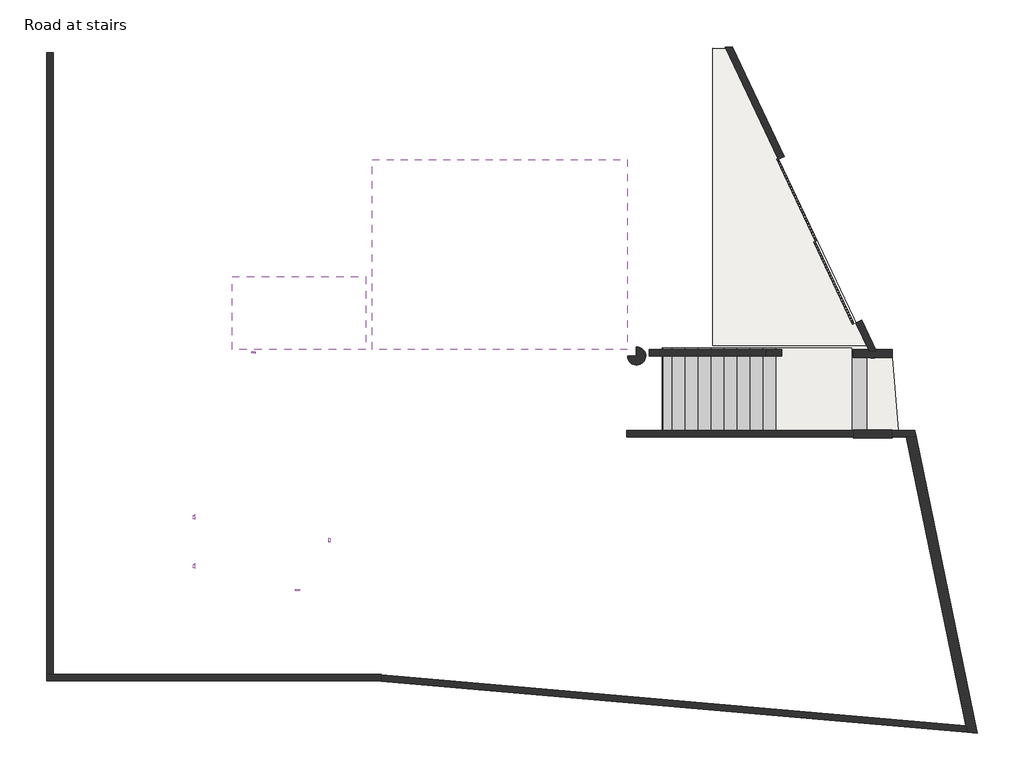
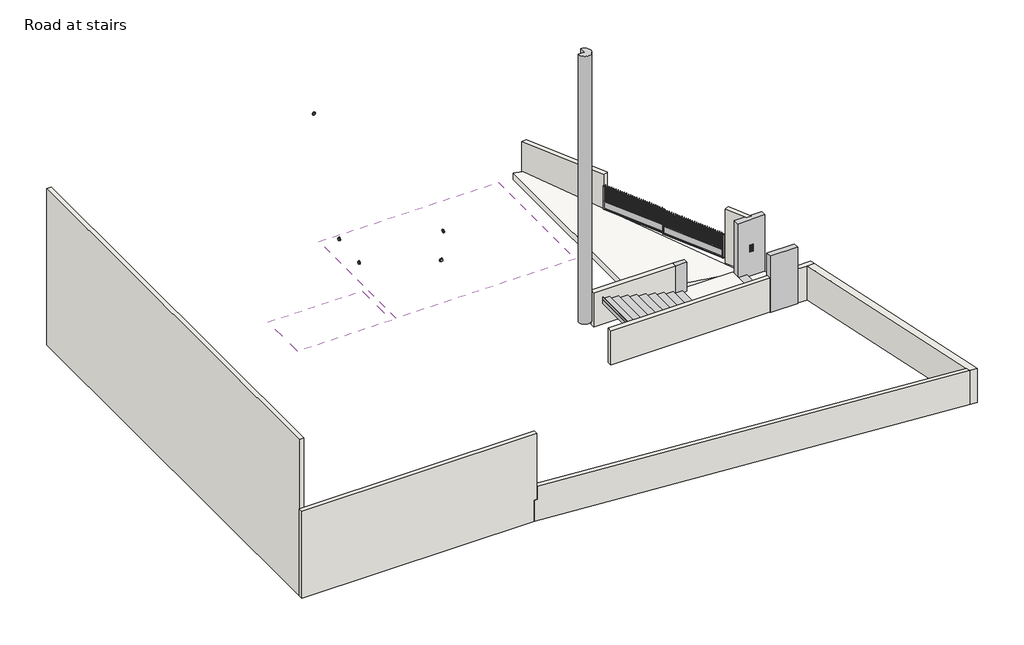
# One storey, incomplete: 8 walls, 5 light fixtures, 4 columns, 3 slabs, 2 coverings, 2 geographic elements, 2 stair flights, 1 electric appliance.
"""IFC4 building model written with IfcOpenShell, lengths in millimetres."""

from ifc_helpers import new_model, si_unit, point, frame, frame_2d, origin, place, context, project, spatial, polyline, circle_curve, trimmed, segment, composite_curve, outline, extrude, faceted_brep, transform, mapped, element, save
from components import communication_device_4de170aa, geographic_element_3dbb8d9e, geographic_element_62fdb492, geographic_element_1e7744e3, geographic_element_150366da, geographic_element_b61b0670, geographic_element_4788649b, m_recessed_lamp_round_led_e6f06c98

model = new_model("IFC4")

# Units and contexts
model_context = context("Model", 3, world=origin())
ifc_project = project(units=[si_unit("LENGTHUNIT", "METRE", prefix="MILLI")], contexts=[model_context])

# Site, building, storey
site = spatial("IfcSite", under=ifc_project)
building = spatial("IfcBuilding", under=site)
storey = spatial("IfcBuildingStorey", under=building, Name="Road at stairs", Elevation=-700.0)

# Columns
placement = place(None, origin())
element("IfcColumn", 1, ObjectType="M_Concrete-Rectangular-Column : 200 x500mm", at=placement, inside=storey, context=model_context, shape_type="SweptSolid", body=[
    extrude(outline(polyline([(12010.87749, 3030.6486583), (12010.87749, 2830.6486583), (11510.87749, 2830.6486583), (11510.87749, 3030.6486583), (12010.87749, 3030.6486583)])), frame((0.0, 0.0, -600.0), z_axis=(0.0, 0.0, 1.0), x_axis=(1.0, 0.0, 0.0)), (0.0, 0.0, 1.0), 1480.0),
])
element("IfcColumn", 2, ObjectType="M_Concrete-Rectangular-Column : 250 x1200mm", at=placement, inside=storey, context=model_context, shape_type="Brep", body=[
    faceted_brep([(15410.8774901, 552.6987644, -700.0), (15410.8774901, 527.6987644, -700.0), (15410.8774901, 327.6987644, -700.0), (15410.8774901, 302.6987644, -700.0), (14210.8774901, 302.6987644, -700.0), (14210.8774901, 327.6987644, -700.0), (14210.8774901, 527.6987644, -700.0), (14210.8774901, 552.6987644, -700.0), (15410.8774901, 552.6987644, 1915.1528001), (15410.8774901, 302.6987644, 1915.1528001), (14210.8774901, 302.6987644, 1915.1528001), (14210.8774901, 552.6987644, 1915.1528001)], [[[0, 1, 2, 3, 4, 5, 6, 7]], [[8, 9, 3, 2, 1, 0]], [[9, 10, 4, 3]], [[10, 11, 7, 6, 5, 4]], [[11, 8, 0, 7]], [[8, 11, 10, 9]]]),
])
element("IfcColumn", 3, ObjectType="M_Concrete-Rectangular-Column : 250 x1200mm", at=placement, inside=storey, context=model_context, shape_type="SweptSolid", body=[
    extrude(outline(polyline([(15410.8774901, 3030.6486583), (15410.8774901, 2780.6486583), (14210.8774901, 2780.6486583), (14210.8774901, 3030.6486583), (15410.8774901, 3030.6486583)])), frame((0.0, 0.0, -700.0), z_axis=(0.0, 0.0, 1.0), x_axis=(1.0, 0.0, 0.0)), (0.0, 0.0, 1.0), 2613.3333333),
])
element("IfcColumn", 4, ObjectType="Structural Columns 2 : Structural Columns 1", at=placement, inside=storey, context=model_context, shape_type="SweptSolid", body=[
    extrude(outline(composite_curve([segment(polyline([(7245.5234079, 2830.6486583), (7512.5234079, 2830.6486583), (7512.5234079, 3110.3467097)]), True, "CONTINUOUS"), segment(trimmed(circle_curve(frame_2d((7525.5234079, 2830.6486583)), 280.0), [point((7512.5234079, 3110.3467097))], [point((7245.5234079, 2830.6486583))], False, "CARTESIAN"), True, "CONTINUOUS")], self_intersect=False)), frame((0.0, 0.0, -239.4526182), z_axis=(0.0, 0.0, 1.0), x_axis=(1.0, 0.0, 0.0)), (0.0, 0.0, 1.0), 12429.4526182),
])

# Coverings
element("IfcCovering", 5, ObjectType="Plain", at=placement, inside=storey, context=model_context, shape_type="SweptSolid", body=[
    extrude(outline(polyline([(-627.4765921, 3030.6486583), (-627.4765921, 8901.6620874), (7235.5234079, 8901.6620874), (7235.5234079, 3030.6486583), (-627.4765921, 3030.6486583)]), holes=[composite_curve([segment(trimmed(circle_curve(frame_2d((4528.1894212, 4577.445533)), 55.0), [point((4473.1894212, 4577.445533))], [point((4583.1894212, 4577.445533))], True, "CARTESIAN"), True, "CONTINUOUS"), segment(trimmed(circle_curve(frame_2d((4528.1894212, 4577.445533)), 55.0), [point((4583.1894212, 4577.445533))], [point((4473.1894212, 4577.445533))], True, "CARTESIAN"), True, "CONTINUOUS")], self_intersect=False), composite_curve([segment(trimmed(circle_curve(frame_2d((4528.1894212, 7459.6229895)), 55.0), [point((4583.1894212, 7459.6229895))], [point((4473.1894212, 7459.6229895))], True, "CARTESIAN"), True, "CONTINUOUS"), segment(trimmed(circle_curve(frame_2d((4528.1894212, 7459.6229895)), 55.0), [point((4473.1894212, 7459.6229895))], [point((4583.1894212, 7459.6229895))], True, "CARTESIAN"), True, "CONTINUOUS")], self_intersect=False), composite_curve([segment(trimmed(circle_curve(frame_2d((1091.0786834, 4576.9703482)), 55.0), [point((1036.0786834, 4576.9703482))], [point((1146.0786834, 4576.9703482))], True, "CARTESIAN"), True, "CONTINUOUS"), segment(trimmed(circle_curve(frame_2d((1091.0786834, 4576.9703482)), 55.0), [point((1146.0786834, 4576.9703482))], [point((1036.0786834, 4576.9703482))], True, "CARTESIAN"), True, "CONTINUOUS")], self_intersect=False), composite_curve([segment(trimmed(circle_curve(frame_2d((1091.0786834, 7460.0981743)), 55.0), [point((1146.0786834, 7460.0981743))], [point((1036.0786834, 7460.0981743))], True, "CARTESIAN"), True, "CONTINUOUS"), segment(trimmed(circle_curve(frame_2d((1091.0786834, 7460.0981743)), 55.0), [point((1036.0786834, 7460.0981743))], [point((1146.0786834, 7460.0981743))], True, "CARTESIAN"), True, "CONTINUOUS")], self_intersect=False), polyline([(2453.1496132, 6066.9824461), (2453.1496132, 6006.9824461), (2513.1496132, 6006.9824461), (2513.1496132, 6066.9824461), (2453.1496132, 6066.9824461)])]), frame((0.0, 0.0, 2573.0), z_axis=(0.0, 0.0, 1.0), x_axis=(1.0, 0.0, 0.0)), (0.0, 0.0, 1.0), 12.0),
])
element("IfcCovering", 6, ObjectType="Plain", at=placement, inside=storey, context=model_context, shape_type="SweptSolid", body=[
    extrude(outline(polyline([(-4957.4765921, 3030.6486583), (-4957.4765921, 5284.4560655), (-827.4765921, 5284.4560655), (-827.4765921, 3030.6486583), (-4957.4765921, 3030.6486583)]), holes=[composite_curve([segment(trimmed(circle_curve(frame_2d((-2807.4765921, 4284.4560655)), 55.0), [point((-2752.4765921, 4284.4560655))], [point((-2862.4765921, 4284.4560655))], True, "CARTESIAN"), True, "CONTINUOUS"), segment(trimmed(circle_curve(frame_2d((-2807.4765921, 4284.4560655)), 55.0), [point((-2862.4765921, 4284.4560655))], [point((-2752.4765921, 4284.4560655))], True, "CARTESIAN"), True, "CONTINUOUS")], self_intersect=False), composite_curve([segment(trimmed(circle_curve(frame_2d((-4207.4765921, 4284.4560655)), 55.0), [point((-4152.4765921, 4284.4560655))], [point((-4262.4765921, 4284.4560655))], True, "CARTESIAN"), True, "CONTINUOUS"), segment(trimmed(circle_curve(frame_2d((-4207.4765921, 4284.4560655)), 55.0), [point((-4262.4765921, 4284.4560655))], [point((-4152.4765921, 4284.4560655))], True, "CARTESIAN"), True, "CONTINUOUS")], self_intersect=False), composite_curve([segment(trimmed(circle_curve(frame_2d((-1407.4765921, 4284.4560655)), 55.0), [point((-1352.4765921, 4284.4560655))], [point((-1462.4765921, 4284.4560655))], True, "CARTESIAN"), True, "CONTINUOUS"), segment(trimmed(circle_curve(frame_2d((-1407.4765921, 4284.4560655)), 55.0), [point((-1462.4765921, 4284.4560655))], [point((-1352.4765921, 4284.4560655))], True, "CARTESIAN"), True, "CONTINUOUS")], self_intersect=False)]), frame((0.0, 0.0, 2550.0), z_axis=(0.0, 0.0, 1.0), x_axis=(1.0, 0.0, 0.0)), (0.0, 0.0, 1.0), 12.0),
])

# Electric appliance
communication_device_shape = communication_device_4de170aa(model_context)
element("IfcElectricAppliance", 7, ObjectType="E_Communication Device_Intercom_F_MEPcontent_Recessed_Generic : Communication Device", at=placement, inside=storey, context=model_context, shape_type="MappedRepresentation", body=[
    mapped(communication_device_shape, transform((14810.8774901, 2780.6486583, 580.0), x_axis=(1.0, 0.0, 0.0), y_axis=(0.0, 0.0, 1.0), z_axis=(0.0, -1.0, 0.0))),
])

# Geographic elements
geographic_element_shape = geographic_element_3dbb8d9e(model_context)
geographic_element_2_shape = geographic_element_62fdb492(model_context)
geographic_element_3_shape = geographic_element_1e7744e3(model_context)
element("IfcGeographicElement", 8, ObjectType="Portail coulissant - 01 : Portail coulissant - 01", at=placement, inside=storey, context=model_context, shape_type="MappedRepresentation", body=[
    mapped(geographic_element_shape, transform((13666.5138895, 4971.8720463, -300.0), x_axis=(0.42753488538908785, -0.903998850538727, 0.0), y_axis=(0.903998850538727, 0.42753488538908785, 0.0), z_axis=(0.0, 0.0, 1.0))),
    mapped(geographic_element_2_shape, transform((13666.5138895, 4971.8720463, -300.0), x_axis=(0.42753488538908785, -0.903998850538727, 0.0), y_axis=(0.903998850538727, 0.42753488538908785, 0.0), z_axis=(0.0, 0.0, 1.0))),
    mapped(geographic_element_3_shape, transform((13666.5138895, 4971.8720463, -300.0), x_axis=(0.42753488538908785, -0.903998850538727, 0.0), y_axis=(0.903998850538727, 0.42753488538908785, 0.0), z_axis=(0.0, 0.0, 1.0))),
])
geographic_element_4_shape = geographic_element_150366da(model_context)
geographic_element_5_shape = geographic_element_b61b0670(model_context)
geographic_element_6_shape = geographic_element_4788649b(model_context)
element("IfcGeographicElement", 9, ObjectType="Portail coulissant - 01 : Portail coulissant - 01", at=placement, inside=storey, context=model_context, shape_type="MappedRepresentation", body=[
    mapped(geographic_element_4_shape, transform((12410.774708, 7776.4568016, -300.0), x_axis=(-0.42753488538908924, 0.9039988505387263, 0.0), y_axis=(-0.9039988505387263, -0.42753488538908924, 0.0), z_axis=(0.0, 0.0, 1.0))),
    mapped(geographic_element_5_shape, transform((12410.774708, 7776.4568016, -300.0), x_axis=(-0.42753488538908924, 0.9039988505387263, 0.0), y_axis=(-0.9039988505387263, -0.42753488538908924, 0.0), z_axis=(0.0, 0.0, 1.0))),
    mapped(geographic_element_6_shape, transform((12410.774708, 7776.4568016, -300.0), x_axis=(-0.42753488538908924, 0.9039988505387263, 0.0), y_axis=(-0.9039988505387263, -0.42753488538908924, 0.0), z_axis=(0.0, 0.0, 1.0))),
])

# Light fixtures
m_recessed_lamp_round_led_shape = m_recessed_lamp_round_led_e6f06c98(model_context)
element("IfcLightFixture", 10, ObjectType="M_Recessed Lamp - Round - LED : 100mm Trimless Downlight", at=placement, inside=storey, context=model_context, shape_type="MappedRepresentation", body=[
    mapped(m_recessed_lamp_round_led_shape, transform((-6107.4765921, -3652.1554926, 11138.9960878), x_axis=(0.0, 1.0, 0.0), y_axis=(0.0, 0.0, 1.0), z_axis=(1.0, 0.0, 0.0))),
])
element("IfcLightFixture", 11, ObjectType="M_Recessed Lamp - Round - LED : 100mm Trimless Downlight", at=placement, inside=storey, context=model_context, shape_type="MappedRepresentation", body=[
    mapped(m_recessed_lamp_round_led_shape, transform((-6107.4765921, -2139.8724951, 11311.2799827), x_axis=(0.0, 1.0, 0.0), y_axis=(0.0, 0.0, 1.0), z_axis=(1.0, 0.0, 0.0))),
])
element("IfcLightFixture", 12, ObjectType="M_Recessed Lamp - Round - LED : 100mm Trimless Downlight", at=placement, inside=storey, context=model_context, shape_type="MappedRepresentation", body=[
    mapped(m_recessed_lamp_round_led_shape, transform((-4293.8265921, 2926.4863231, 13423.9355638), x_axis=(1.0, 0.0, 0.0), y_axis=(0.0, 0.0, 1.0), z_axis=(0.0, -1.0, 0.0))),
])
element("IfcLightFixture", 13, ObjectType="M_Recessed Lamp - Round - LED : 100mm Trimless Downlight", at=placement, inside=storey, context=model_context, shape_type="MappedRepresentation", body=[
    mapped(m_recessed_lamp_round_led_shape, transform((-2940.0, -4385.2669739, 10595.7789892), x_axis=(-1.0, 0.0, 0.0), y_axis=(0.0, 0.0, 1.0), z_axis=(0.0, 1.0, 0.0))),
])
element("IfcLightFixture", 14, ObjectType="M_Recessed Lamp - Round - LED : 100mm Trimless Downlight", at=placement, inside=storey, context=model_context, shape_type="MappedRepresentation", body=[
    mapped(m_recessed_lamp_round_led_shape, transform((-1970.9661191, -2855.2669739, 10659.9950677), x_axis=(0.0, -1.0, 0.0), y_axis=(0.0, 0.0, 1.0), z_axis=(-1.0, 0.0, 0.0))),
])

# Slabs
element("IfcSlab", 15, ObjectType="300mm Foundation Slab 2", at=placement, inside=storey, context=model_context, shape_type="Brep", body=[
    faceted_brep([(9876.3853705, 12329.3307616, -303.250816), (10284.5140818, 12319.0970126, -363.4958212), (14618.522861, 3155.0753421, -1003.250816), (9876.3853705, 3155.0753421, -303.250816), (9876.3853705, 12329.3307616, 0.0), (9876.3853705, 3155.0753421, 0.0), (14618.522861, 3155.0753421, -700.0), (10284.5140818, 12319.0970126, -60.2450052)], [[[0, 1, 2, 3]], [[4, 5, 6, 7]], [[1, 0, 4, 7]], [[2, 1, 7, 6]], [[3, 2, 6, 5]], [[0, 3, 5, 4]]]),
])
element("IfcSlab", 16, ObjectType="300mm Thickness", at=placement, inside=storey, context=model_context, shape_type="SolidModel", body=[
    faceted_brep([(14136.9996553, 527.6987644, -516.6666667), (14136.9996553, 2780.6486582, -516.6666667), (14169.4996553, 2780.6486582, -516.6666667), (14169.4996553, 3080.6486583, -516.6666667), (12321.2209388, 3080.6486583, -516.6666667), (11810.8774899, 3080.6486583, -516.6666667), (11778.3774899, 3080.6486583, -516.6666667), (11778.3774899, 527.6987644, -516.6666667), (11810.8774899, 527.6987644, -516.6666667), (12321.2209388, 527.6987644, -516.6666667), (14136.9996553, 527.6987644, -623.3333333), (14136.9996553, 527.6987644, -700.0), (14136.9996553, 2780.6486582, -700.0), (14136.9996553, 2780.6486582, -623.3333333), (14169.4996553, 2780.6486582, -700.0), (14169.4996553, 3080.6486583, -700.0), (12321.2209388, 3080.6486583, -700.0), (11883.7209388, 3080.6486583, -700.0), (11810.8774899, 3080.6486583, -680.5750803), (11778.3774899, 3080.6486583, -671.9084136), (11778.3774899, 527.6987644, -671.9084136), (11810.8774899, 527.6987644, -680.5750803), (11883.7209388, 527.6987644, -700.0), (12321.2209388, 527.6987644, -700.0)], [[[0, 1, 2, 3, 4, 5, 6, 7, 8, 9]], [[1, 0, 10, 11, 12, 13]], [[3, 2, 14, 15]], [[3, 15, 16, 17, 18, 5, 4]], [[6, 5, 18, 19]], [[7, 6, 19, 20]], [[8, 7, 20, 21]], [[11, 10, 0, 9, 8, 21, 22, 23]], [[12, 11, 23, 22, 17, 16, 15, 14]], [[17, 22, 21, 20, 19, 18]], [[2, 1, 13, 12, 14]]]),
    extrude(outline(polyline([(14169.4996553, 527.6987644), (11810.8774899, 527.6987644), (11790.8774899, 527.6987644), (11790.8774899, 3080.6486583), (11810.8774899, 3080.6486583), (14169.4996553, 3080.6486583), (14169.4996553, 2780.6486582), (14169.4996553, 527.6987644)])), frame((0.0, 0.0, -516.6666667), z_axis=(0.0, 0.0, 1.0), x_axis=(1.0, 0.0, 0.0)), (0.0, 0.0, 1.0), 30.0),
])
element("IfcSlab", 17, ObjectType="front landing", at=placement, inside=storey, context=model_context, shape_type="SweptSolid", body=[
    extrude(outline(polyline([(14619.4996553, 2780.6486583), (15410.8774901, 2780.6486583), (15590.8774901, 527.6987644), (14619.4996553, 527.6987644), (14619.4996553, 2780.6486583)])), frame((0.0, 0.0, -850.0), z_axis=(0.0, 0.0, 1.0), x_axis=(1.0, 0.0, 0.0)), (0.0, 0.0, 1.0), 150.0),
])

# Stair flights
element("IfcStairFlight", 18, ObjectType="150mm Depth", at=placement, inside=storey, context=model_context, shape_type="SolidModel", body=[
    faceted_brep([(14136.9996553, 527.6987644, -623.3333333), (14169.4996553, 527.6987644, -623.3333333), (14586.9996553, 527.6987644, -623.3333333), (14586.9996553, 2780.6486582, -623.3333333), (14169.4996553, 2780.6486582, -623.3333333), (14136.9996553, 2780.6486582, -623.3333333), (14136.9996553, 527.6987644, -700.0), (14169.4996553, 527.6987644, -700.0), (14586.9996553, 527.6987644, -700.0), (14586.9996553, 2780.6486582, -700.0), (14169.4996553, 2780.6486582, -700.0), (14136.9996553, 2780.6486582, -700.0)], [[[0, 1, 2, 3, 4, 5]], [[1, 0, 6, 7]], [[3, 2, 8, 9]], [[3, 9, 10, 11, 5, 4]], [[0, 5, 11, 6]], [[7, 6, 11, 10, 9, 8]], [[2, 1, 7, 8]]]),
    extrude(outline(polyline([(14586.9996553, 2780.6486582), (14599.4996553, 2780.6486582), (14599.4996553, 527.6987644), (14586.9996553, 527.6987644), (14586.9996553, 2780.6486582)])), frame((0.0, 0.0, -700.0), z_axis=(0.0, 0.0, 1.0), x_axis=(1.0, 0.0, 0.0)), (0.0, 0.0, 1.0), 76.6666667),
    extrude(outline(polyline([(14136.9996553, 2780.6486582), (14149.4996553, 2780.6486582), (14149.4996553, 527.6987644), (14136.9996553, 527.6987644), (14136.9996553, 2780.6486582)])), frame((0.0, 0.0, -593.3333333), z_axis=(0.0, 0.0, 1.0), x_axis=(1.0, 0.0, 0.0)), (0.0, 0.0, 1.0), 76.6666667),
    extrude(outline(polyline([(14149.4996553, 527.6987644), (14149.4996553, 2780.6486582), (14619.4996553, 2780.6486582), (14619.4996553, 527.6987644), (14169.4996553, 527.6987644), (14149.4996553, 527.6987644)])), frame((0.0, 0.0, -623.3333333), z_axis=(0.0, 0.0, 1.0), x_axis=(1.0, 0.0, 0.0)), (0.0, 0.0, 1.0), 30.0),
])
element("IfcStairFlight", 19, ObjectType="150mm Depth", at=placement, inside=storey, context=model_context, shape_type="SolidModel", body=[
    faceted_brep([(11378.3774899, 527.6987644, -410.0), (11778.3774899, 527.6987644, -410.0), (11778.3774899, 3080.6486583, -410.0), (11378.3774899, 3080.6486583, -410.0), (11378.3774899, 527.6987644, -565.241747), (11778.3774899, 527.6987644, -671.9084136), (11778.3774899, 527.6987644, -516.6666667), (11778.3774899, 3080.6486583, -671.9084136), (11778.3774899, 3080.6486583, -516.6666667), (11378.3774899, 3080.6486583, -565.241747), (10978.3774899, 527.6987644, -303.3333333), (11378.3774899, 527.6987644, -303.3333333), (11378.3774899, 3080.6486583, -303.3333333), (10978.3774899, 3080.6486583, -303.3333333), (10978.3774899, 527.6987644, -458.5750803), (10978.3774899, 3080.6486583, -458.5750803), (10578.3774899, 527.6987644, -196.6666667), (10978.3774899, 527.6987644, -196.6666667), (10978.3774899, 3080.6486583, -196.6666667), (10578.3774899, 3080.6486583, -196.6666667), (10578.3774899, 527.6987644, -351.9084136), (10578.3774899, 3080.6486583, -351.9084136), (10178.3774899, 527.6987644, -90.0), (10578.3774899, 527.6987644, -90.0), (10578.3774899, 3080.6486583, -90.0), (10178.3774899, 3080.6486583, -90.0), (10178.3774899, 527.6987644, -245.241747), (10178.3774899, 3080.6486583, -245.241747), (9778.3774899, 527.6987644, 16.6666667), (10178.3774899, 527.6987644, 16.6666667), (10178.3774899, 3080.6486583, 16.6666667), (9778.3774899, 3080.6486583, 16.6666667), (9778.3774899, 527.6987644, -138.5750803), (9778.3774899, 3080.6486583, -138.5750803), (9378.3774899, 527.6987644, 123.3333333), (9778.3774899, 527.6987644, 123.3333333), (9778.3774899, 3080.6486583, 123.3333333), (9378.3774899, 3080.6486583, 123.3333333), (9378.3774899, 527.6987644, -31.9084136), (9378.3774899, 3080.6486583, -31.9084136), (8978.3774899, 527.6987644, 230.0), (9378.3774899, 527.6987644, 230.0), (9378.3774899, 3080.6486583, 230.0), (8978.3774899, 3080.6486583, 230.0), (8978.3774899, 527.6987644, 74.758253), (8978.3774899, 3080.6486583, 74.758253), (8578.3774899, 527.6987644, 336.6666667), (8978.3774899, 527.6987644, 336.6666667), (8978.3774899, 3080.6486583, 336.6666667), (8578.3774899, 3080.6486583, 336.6666667), (8578.3774899, 527.6987644, 181.4249197), (8578.3774899, 3080.6486583, 181.4249197), (8315.37749, 527.6987644, 251.558253), (8315.37749, 3080.6486583, 251.558253), (8315.37749, 527.6987644, 443.3333333), (8578.3774899, 527.6987644, 443.3333333), (8578.3774899, 3080.6486583, 443.3333333), (8315.37749, 3080.6486583, 443.3333333)], [[[0, 1, 2, 3]], [[1, 0, 4, 5, 6]], [[2, 1, 6, 5, 7, 8]], [[3, 2, 8, 7, 9]], [[10, 11, 12, 13]], [[11, 10, 14, 4, 0]], [[0, 3, 12, 11]], [[13, 12, 3, 9, 15]], [[16, 17, 18, 19]], [[17, 16, 20, 14, 10]], [[10, 13, 18, 17]], [[19, 18, 13, 15, 21]], [[22, 23, 24, 25]], [[23, 22, 26, 20, 16]], [[16, 19, 24, 23]], [[25, 24, 19, 21, 27]], [[28, 29, 30, 31]], [[29, 28, 32, 26, 22]], [[22, 25, 30, 29]], [[31, 30, 25, 27, 33]], [[34, 35, 36, 37]], [[35, 34, 38, 32, 28]], [[28, 31, 36, 35]], [[37, 36, 31, 33, 39]], [[40, 41, 42, 43]], [[41, 40, 44, 38, 34]], [[34, 37, 42, 41]], [[43, 42, 37, 39, 45]], [[46, 47, 48, 49]], [[47, 46, 50, 44, 40]], [[40, 43, 48, 47]], [[49, 48, 43, 45, 51]], [[5, 4, 14, 20, 26, 32, 38, 44, 50, 52, 53, 51, 45, 39, 33, 27, 21, 15, 9, 7]], [[54, 55, 56, 57]], [[55, 54, 52, 50, 46]], [[46, 49, 56, 55]], [[57, 56, 49, 51, 53]], [[54, 57, 53, 52]]]),
    extrude(outline(polyline([(11778.3774899, 3080.6486583), (11790.8774899, 3080.6486583), (11790.8774899, 527.6987644), (11778.3774899, 527.6987644), (11778.3774899, 3080.6486583)])), frame((0.0, 0.0, -516.6666667), z_axis=(0.0, 0.0, 1.0), x_axis=(1.0, 0.0, 0.0)), (0.0, 0.0, 1.0), 106.6666667),
    extrude(outline(polyline([(11390.8774899, 527.6987644), (11390.8774899, 3080.6486583), (11810.8774899, 3080.6486583), (11810.8774899, 527.6987644), (11390.8774899, 527.6987644)])), frame((0.0, 0.0, -410.0), z_axis=(0.0, 0.0, 1.0), x_axis=(1.0, 0.0, 0.0)), (0.0, 0.0, 1.0), 30.0),
    extrude(outline(polyline([(11378.3774899, 3080.6486583), (11390.8774899, 3080.6486583), (11390.8774899, 527.6987644), (11378.3774899, 527.6987644), (11378.3774899, 3080.6486583)])), frame((0.0, 0.0, -410.0), z_axis=(0.0, 0.0, 1.0), x_axis=(1.0, 0.0, 0.0)), (0.0, 0.0, 1.0), 106.6666667),
    extrude(outline(polyline([(10990.8774899, 527.6987644), (10990.8774899, 3080.6486583), (11410.8774899, 3080.6486583), (11410.8774899, 527.6987644), (10990.8774899, 527.6987644)])), frame((0.0, 0.0, -303.3333333), z_axis=(0.0, 0.0, 1.0), x_axis=(1.0, 0.0, 0.0)), (0.0, 0.0, 1.0), 30.0),
    extrude(outline(polyline([(10978.3774899, 3080.6486583), (10990.8774899, 3080.6486583), (10990.8774899, 527.6987644), (10978.3774899, 527.6987644), (10978.3774899, 3080.6486583)])), frame((0.0, 0.0, -303.3333333), z_axis=(0.0, 0.0, 1.0), x_axis=(1.0, 0.0, 0.0)), (0.0, 0.0, 1.0), 106.6666667),
    extrude(outline(polyline([(10590.8774899, 527.6987644), (10590.8774899, 3080.6486583), (11010.8774899, 3080.6486583), (11010.8774899, 527.6987644), (10590.8774899, 527.6987644)])), frame((0.0, 0.0, -196.6666667), z_axis=(0.0, 0.0, 1.0), x_axis=(1.0, 0.0, 0.0)), (0.0, 0.0, 1.0), 30.0),
    extrude(outline(polyline([(10578.3774899, 3080.6486583), (10590.8774899, 3080.6486583), (10590.8774899, 527.6987644), (10578.3774899, 527.6987644), (10578.3774899, 3080.6486583)])), frame((0.0, 0.0, -196.6666667), z_axis=(0.0, 0.0, 1.0), x_axis=(1.0, 0.0, 0.0)), (0.0, 0.0, 1.0), 106.6666667),
    extrude(outline(polyline([(10190.8774899, 527.6987644), (10190.8774899, 3080.6486583), (10610.8774899, 3080.6486583), (10610.8774899, 527.6987644), (10190.8774899, 527.6987644)])), frame((0.0, 0.0, -90.0), z_axis=(0.0, 0.0, 1.0), x_axis=(1.0, 0.0, 0.0)), (0.0, 0.0, 1.0), 30.0),
    extrude(outline(polyline([(10178.3774899, 3080.6486583), (10190.8774899, 3080.6486583), (10190.8774899, 527.6987644), (10178.3774899, 527.6987644), (10178.3774899, 3080.6486583)])), frame((0.0, 0.0, -90.0), z_axis=(0.0, 0.0, 1.0), x_axis=(1.0, 0.0, 0.0)), (0.0, 0.0, 1.0), 106.6666667),
    extrude(outline(polyline([(9790.8774899, 527.6987644), (9790.8774899, 3080.6486583), (10210.8774899, 3080.6486583), (10210.8774899, 527.6987644), (9790.8774899, 527.6987644)])), frame((0.0, 0.0, 16.6666667), z_axis=(0.0, 0.0, 1.0), x_axis=(1.0, 0.0, 0.0)), (0.0, 0.0, 1.0), 30.0),
    extrude(outline(polyline([(9778.3774899, 3080.6486583), (9790.8774899, 3080.6486583), (9790.8774899, 527.6987644), (9778.3774899, 527.6987644), (9778.3774899, 3080.6486583)])), frame((0.0, 0.0, 16.6666667), z_axis=(0.0, 0.0, 1.0), x_axis=(1.0, 0.0, 0.0)), (0.0, 0.0, 1.0), 106.6666667),
    extrude(outline(polyline([(9390.8774899, 527.6987644), (9390.8774899, 3080.6486583), (9810.8774899, 3080.6486583), (9810.8774899, 527.6987644), (9390.8774899, 527.6987644)])), frame((0.0, 0.0, 123.3333333), z_axis=(0.0, 0.0, 1.0), x_axis=(1.0, 0.0, 0.0)), (0.0, 0.0, 1.0), 30.0),
    extrude(outline(polyline([(9378.3774899, 3080.6486583), (9390.8774899, 3080.6486583), (9390.8774899, 527.6987644), (9378.3774899, 527.6987644), (9378.3774899, 3080.6486583)])), frame((0.0, 0.0, 123.3333333), z_axis=(0.0, 0.0, 1.0), x_axis=(1.0, 0.0, 0.0)), (0.0, 0.0, 1.0), 106.6666667),
    extrude(outline(polyline([(8990.8774899, 527.6987644), (8990.8774899, 3080.6486583), (9410.8774899, 3080.6486583), (9410.8774899, 527.6987644), (8990.8774899, 527.6987644)])), frame((0.0, 0.0, 230.0), z_axis=(0.0, 0.0, 1.0), x_axis=(1.0, 0.0, 0.0)), (0.0, 0.0, 1.0), 30.0),
    extrude(outline(polyline([(8978.3774899, 3080.6486583), (8990.8774899, 3080.6486583), (8990.8774899, 527.6987644), (8978.3774899, 527.6987644), (8978.3774899, 3080.6486583)])), frame((0.0, 0.0, 230.0), z_axis=(0.0, 0.0, 1.0), x_axis=(1.0, 0.0, 0.0)), (0.0, 0.0, 1.0), 106.6666667),
    extrude(outline(polyline([(8590.8774899, 527.6987644), (8590.8774899, 3080.6486583), (9010.8774899, 3080.6486583), (9010.8774899, 527.6987644), (8590.8774899, 527.6987644)])), frame((0.0, 0.0, 336.6666667), z_axis=(0.0, 0.0, 1.0), x_axis=(1.0, 0.0, 0.0)), (0.0, 0.0, 1.0), 30.0),
    extrude(outline(polyline([(8315.37749, 3080.6486583), (8327.87749, 3080.6486583), (8327.87749, 527.6987644), (8315.37749, 527.6987644), (8315.37749, 3080.6486583)])), frame((0.0, 0.0, 443.3333333), z_axis=(0.0, 0.0, 1.0), x_axis=(1.0, 0.0, 0.0)), (0.0, 0.0, 1.0), 106.6666667),
    extrude(outline(polyline([(8578.3774899, 3080.6486583), (8590.8774899, 3080.6486583), (8590.8774899, 527.6987644), (8578.3774899, 527.6987644), (8578.3774899, 3080.6486583)])), frame((0.0, 0.0, 336.6666667), z_axis=(0.0, 0.0, 1.0), x_axis=(1.0, 0.0, 0.0)), (0.0, 0.0, 1.0), 106.6666667),
    extrude(outline(polyline([(8327.87749, 527.6987644), (8327.87749, 3080.6486583), (8610.8774899, 3080.6486583), (8610.8774899, 527.6987644), (8327.87749, 527.6987644)])), frame((0.0, 0.0, 443.3333333), z_axis=(0.0, 0.0, 1.0), x_axis=(1.0, 0.0, 0.0)), (0.0, 0.0, 1.0), 30.0),
])

# Walls
element("IfcWall", 20, ObjectType="Generic - 200mm", at=placement, inside=storey, context=model_context, shape_type="Brep", body=[
    faceted_brep([(16108.9818297, 527.6987644, 880.0), (16108.9818297, 527.6987644, -700.0), (15410.8774901, 527.6987644, -700.0), (15410.8774901, 527.6987644, 880.0), (16150.3596644, 327.6987644, -700.0), (16150.3596644, 327.6987644, 880.0), (15844.0064668, 327.6987644, 880.0), (15410.8774901, 327.6987644, 880.0), (15410.8774901, 327.6987644, -700.0), (15844.0064668, 327.6987644, -700.0)], [[[0, 1, 2, 3]], [[4, 5, 6, 7, 8, 9]], [[1, 0, 5, 4]], [[1, 4, 9, 8, 2]], [[5, 0, 3, 7, 6]], [[3, 2, 8, 7]]]),
    faceted_brep([(7226.3853705, 527.6987644, -700.0), (7226.3853705, 527.6987644, 880.0), (14210.8774901, 527.6987644, 880.0), (14210.8774901, 527.6987644, -700.0), (7226.3853705, 327.6987644, 880.0), (7226.3853705, 327.6987644, 580.0), (7226.3853705, 327.6987644, -700.0), (14210.8774901, 327.6987644, -700.0), (14210.8774901, 327.6987644, 880.0), (7426.3853705, 327.6987644, 880.0)], [[[0, 1, 2, 3]], [[4, 5, 6, 7, 8, 9]], [[6, 0, 3, 7]], [[1, 4, 9, 8, 2]], [[3, 2, 8, 7]], [[1, 0, 6, 5, 4]]]),
])
element("IfcWall", 21, ObjectType="Generic - 200mm", at=placement, inside=storey, context=model_context, shape_type="Brep", body=[
    faceted_brep([(-485.372558, -7201.305082, -700.0), (17729.4677727, -8785.6892081, -700.0), (17729.4677727, -8785.6892081, 880.0), (-359.3951562, -7212.2629928, 880.0), (-359.3951562, -7212.2629928, 280.0), (-485.372558, -7201.305082, 280.0), (-476.6906344, -7001.305082, -700.0), (-476.6906344, -7001.305082, 280.0), (-359.3951562, -7011.5078118, 280.0), (-359.3951562, -7011.5078118, 880.0), (17687.17256, -8581.2550564, 880.0), (17687.17256, -8581.2550564, -700.0), (-359.3951562, -7201.305082, 280.0)], [[[0, 1, 2, 3, 4, 5]], [[6, 7, 8, 9, 10, 11]], [[1, 0, 6, 11]], [[3, 2, 10, 9]], [[2, 1, 11, 10]], [[4, 12, 8, 7, 5]], [[0, 5, 7, 6]], [[4, 3, 9, 8, 12]]]),
])
element("IfcWall", 22, ObjectType="Generic - 200mm", at=placement, inside=storey, context=model_context, shape_type="Brep", body=[
    faceted_brep([(-476.6906344, -7001.305082, -700.0), (-10479.3966327, -7001.305082, -700.0), (-10679.3966327, -7001.305082, -700.0), (-10679.3966327, -7001.305082, 3330.0), (-359.3951562, -7001.305082, 3330.0), (-359.3951562, -7001.305082, 3000.0), (-359.3951562, -7001.305082, 280.0), (-476.6906344, -7001.305082, 280.0), (-485.372558, -7201.305082, -700.0), (-485.372558, -7201.305082, 280.0), (-359.3951562, -7201.305082, 280.0), (-359.3951562, -7201.305082, 3330.0), (-10679.3966327, -7201.305082, 3330.0), (-10679.3966327, -7201.305082, -700.0), (-359.3951562, -7011.5078118, 280.0)], [[[0, 1, 2, 3, 4, 5, 6, 7]], [[8, 9, 10, 11, 12, 13]], [[2, 1, 0, 8, 13]], [[4, 3, 12, 11]], [[3, 2, 13, 12]], [[6, 14, 10, 9, 7]], [[0, 7, 9, 8]], [[4, 11, 10, 14, 6, 5]]]),
])
element("IfcWall", 23, ObjectType="Generic - 200mm", at=placement, inside=storey, context=model_context, shape_type="Brep", body=[
    faceted_brep([(-10479.3966327, -7001.305082, -700.0), (-10479.3966327, 12199.6307767, -700.0), (-10479.3966327, 12199.6307767, 0.0), (-10479.3966327, 12199.6307767, 3000.0), (-10479.3966327, 12199.6307767, 6550.0), (-10479.3966327, -7001.305082, 6550.0), (-10679.3966327, -7001.305082, -700.0), (-10679.3966327, -7001.305082, 3330.0), (-10679.3966327, -7001.305082, 6550.0), (-10679.3966327, 12199.6307767, 6550.0), (-10679.3966327, 12199.6307767, -700.0)], [[[0, 1, 2, 3, 4, 5]], [[6, 7, 8, 9, 10]], [[1, 0, 6, 10]], [[5, 4, 9, 8]], [[0, 5, 8, 7, 6]], [[4, 3, 2, 1, 10, 9]]]),
])
element("IfcWall", 24, ObjectType="Generic - 200mm", at=placement, inside=storey, context=model_context, shape_type="Brep", body=[
    faceted_brep([(11899.4446933, 8904.4156233, -486.5413019), (11899.4446933, 8904.4156233, 1300.0), (10262.010464, 12366.6796669, 1300.0), (10262.010464, 12366.6796669, -303.3627061), (11395.407118, 9970.175177, 950.0), (11395.407118, 9970.175177, 1010.0), (11421.0592111, 9915.935246, 1010.0), (11421.0592111, 9915.935246, 950.0), (12080.2444634, 8989.9226003, 1300.0), (12080.2444634, 8989.9226003, -486.5413019), (10473.5595998, 12387.1688123, -306.8026156), (10473.5595998, 12387.1688123, -290.1041335), (10473.5595998, 12387.1688123, 1300.0), (11440.6070605, 9991.5519213, 950.0), (11466.2591536, 9937.3119903, 950.0), (11466.2591536, 9937.3119903, 1010.0), (11440.6070605, 9991.5519213, 1010.0)], [[[0, 1, 2, 3], [4, 5, 6, 7]], [[8, 9, 10, 11, 12]], [[1, 0, 9, 8]], [[2, 1, 8, 12]], [[0, 3, 10, 9]], [[3, 2, 12, 11, 10]], [[13, 14, 15, 16]], [[13, 16, 5, 4]], [[16, 15, 6, 5]], [[15, 14, 7, 6]], [[14, 13, 4, 7]]]),
])
element("IfcWall", 25, ObjectType="Generic - 200mm", at=placement, inside=storey, context=model_context, shape_type="SweptSolid", body=[
    extrude(outline(polyline([(7922.5030804, 3030.6486583), (11510.87749, 3030.6486583), (11510.87749, 2830.6486583), (7922.5030804, 2830.6486583), (7922.5030804, 3030.6486583)])), frame((0.0, 0.0, -700.0), z_axis=(0.0, 0.0, 1.0), x_axis=(1.0, 0.0, 0.0)), (0.0, 0.0, 1.0), 1580.0),
])
element("IfcWall", 26, ObjectType="Generic - 200mm", at=placement, inside=storey, context=model_context, shape_type="SweptSolid", body=[
    extrude(outline(polyline([(14701.0157671, 2980.6486583), (14289.6901622, 3850.3738823), (14470.4899324, 3935.8808594), (14922.2549865, 2980.6486583), (14701.0157671, 2980.6486583)])), frame((0.0, 0.0, -593.3333333), z_axis=(0.0, 0.0, 1.0), x_axis=(1.0, 0.0, 0.0)), (0.0, 0.0, 1.0), 2506.6666667),
])
element("IfcWall", 27, ObjectType="Generic - 300mm", at=placement, inside=storey, context=model_context, shape_type="Brep", body=[
    faceted_brep([(15844.0064668, 327.6987644, -700.0), (17687.17256, -8581.2550564, -700.0), (17729.4677727, -8785.6892081, -700.0), (17729.4677727, -8785.6892081, 880.0), (17687.17256, -8581.2550564, 880.0), (15844.0064668, 327.6987644, 880.0), (16150.3596644, 327.6987644, -700.0), (16150.3596644, 327.6987644, 880.0), (18041.4350941, -8812.8251073, 880.0), (18041.4350941, -8812.8251073, -700.0)], [[[0, 1, 2, 3, 4, 5]], [[6, 7, 8, 9]], [[2, 1, 0, 6, 9]], [[5, 4, 3, 8, 7]], [[0, 5, 7, 6]], [[3, 2, 9, 8]]]),
])

save(model, "model.ifc")
